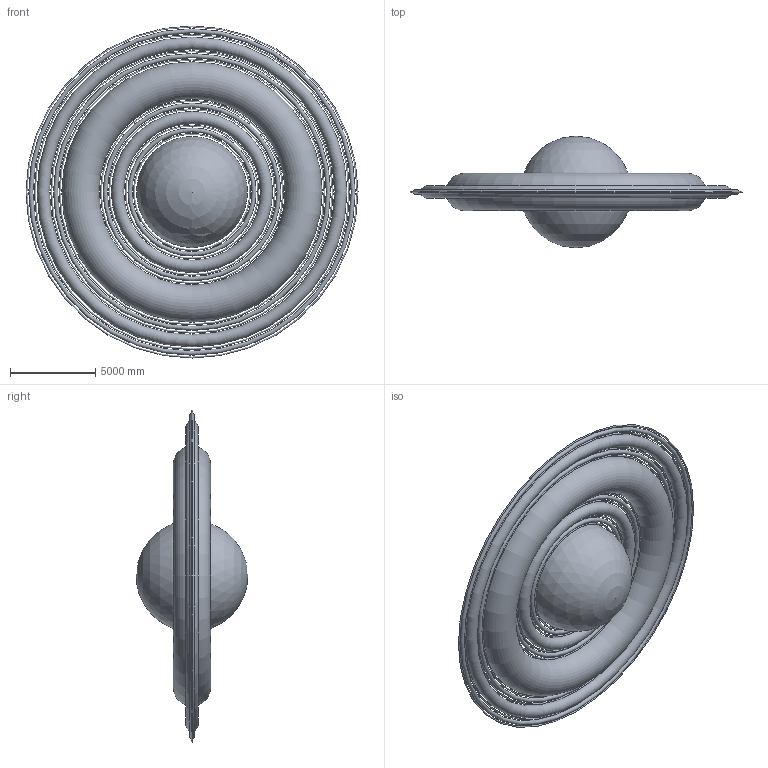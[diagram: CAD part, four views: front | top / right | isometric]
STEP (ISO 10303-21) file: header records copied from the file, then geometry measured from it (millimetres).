
FILE_DESCRIPTION (( 'STEP AP214' ), '1' );
FILE_NAME ('PETS..TRPDLS.O____#SELCRIC#_#CIRTNECNOC#_#SENELOH#_#ETIHW#____O____#WHITE#_#HOLENES#_#CONCENTRIC#_#CIRCLES#____O.SLDPRT..STEP', '2021-03-13T00:29:57', ( ' ' ), ( '' ), 'SwSTEP 2.0', 'SolidWorks 2020', '' );
FILE_SCHEMA (( 'AUTOMOTIVE_DESIGN' ));
Length unit declared in the file: millimetre
Products named in the file (1): PETS..TRPDLS.O____#SELCRIC#_#CIRTNECNOC#_#SENELOH#_#ETIHW#____O____#WHITE#_#HOLENES#_#CONCENTRIC#_#CIRCLES#____O.SLDPRT..STEP
Bounding box: 19521 x 6561 x 19521 mm (x, y, z)
Volume: 346499054532.7 mm3; surface area: 817099878.7 mm2
Topology: 16 solids, 16 shells, 16 faces, 33 edges, 17 vertices
Faces by surface type: torus 15, sphere 1
Entity records: 333 total; most frequent: DIRECTION 34, UNCERTAINTY_MEASURE_WITH_UNIT 18, MECHANICAL_DESIGN_GEOMETRIC_PRESENTATION_REPRESENTATION 17, FILL_AREA_STYLE_COLOUR 17, FILL_AREA_STYLE 17, PRESENTATION_LAYER_ASSIGNMENT 17, SURFACE_SIDE_STYLE 17, PRESENTATION_STYLE_ASSIGNMENT 17
